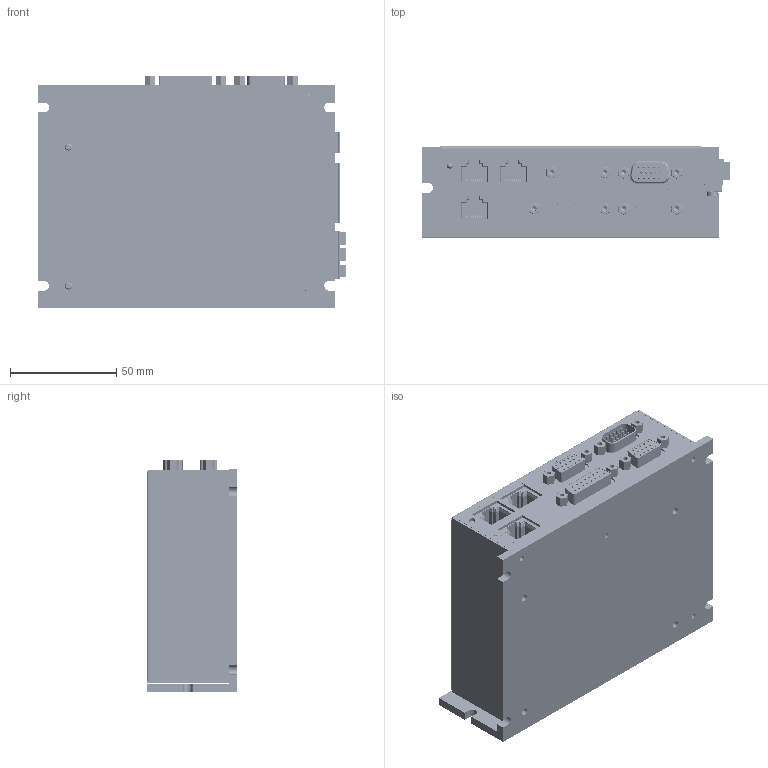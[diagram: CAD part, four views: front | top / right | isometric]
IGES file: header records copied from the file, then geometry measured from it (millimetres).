
Start section: SolidWorks IGES file using analytic representation for surfaces
Global section: file name: P:\Marketing\Manuals\SimplIQ\Digital Servo Drive Manuals\DC-Trombone\solid-files\DC-Trombone-IGES-new\DC-Trombone-new-empty.IGS; native system: SolidWorks 2012; preprocessor: SolidWorks 2012; author: shlomo; date: 120722.102827; units: millimetre
Bounding box: 145.1 x 42.85 x 109.4 mm (x, y, z)
Surface area: 122103.7 mm2 (no closed solid volume)
Topology: 0 solids, 0 shells, 4587 faces, 38268 edges, 38179 vertices
Faces by surface type: bspline 3467, revolution 1120
